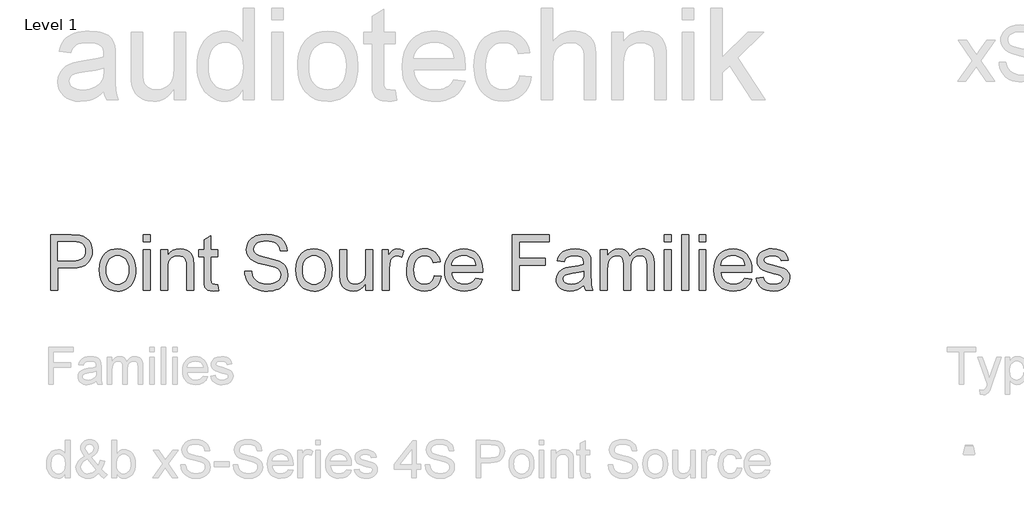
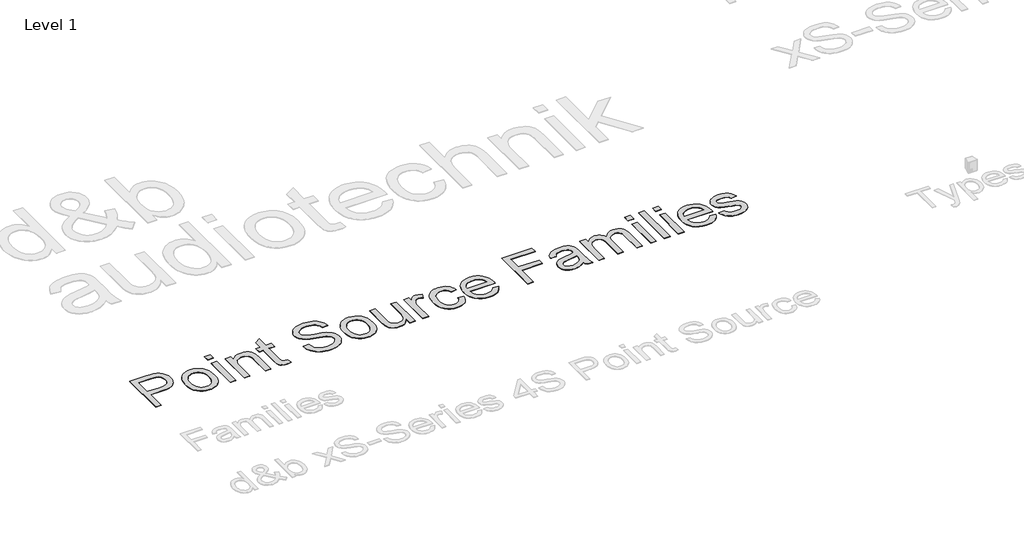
# One storey, part 52 of 55: 1 proxy.
"""IFC4 building model written with IfcOpenShell, lengths in millimetres."""

from ifc_helpers import new_model, si_unit, origin, origin_with_axes, place, context, project, spatial, polyline, outline, extrude, element, save

model = new_model("IFC4")

# Units and contexts
model_context = context("Model", 3, world=origin())
ifc_project = project(units=[si_unit("LENGTHUNIT", "METRE", prefix="MILLI")], contexts=[model_context])

# Site, building, storey
site = spatial("IfcSite", under=ifc_project)
building = spatial("IfcBuilding", under=site)
storey = spatial("IfcBuildingStorey", under=building, Name="Level 1", Elevation=0.0)

# Proxy
placement = place(None, origin())
element("IfcBuildingElementProxy", 1, Name="600mm Arial", ObjectType="600mm Arial", at=placement, inside=storey, context=model_context, shape_type="SweptSolid", body=[
    extrude(outline(polyline([(-21034.9539913, 18351.3054836), (-21034.9539913, 18942.0747143), (-20816.0116836, 18942.0747143), (-20765.0261067, 18940.6684643), (-20727.7424528, 18936.4497143), (-20688.3854817, 18925.938897), (-20655.9876451, 18908.829522), (-20629.8999047, 18884.346349), (-20609.473222, 18851.7141374), (-20596.2761067, 18813.2225509), (-20591.8770682, 18771.1612528), (-20594.8473206, 18734.8962288), (-20603.7580778, 18701.533849), (-20618.6093398, 18671.0741134), (-20639.4011067, 18643.517022), (-20667.9452773, 18620.674474), (-20706.0537509, 18604.3583682), (-20753.7265273, 18594.5687047), (-20810.9636067, 18591.3054836), (-20961.1078374, 18591.3054836), (-20961.1078374, 18351.3054836), (-21034.9539913, 18351.3054836)]), holes=[polyline([(-20961.1078374, 18665.1516374), (-20806.6366836, 18665.1516374), (-20771.1198567, 18666.846349), (-20741.1559143, 18671.9304836), (-20716.7448567, 18680.4040413), (-20697.8866836, 18692.267022), (-20683.8151692, 18707.2039211), (-20673.7640874, 18724.8992336), (-20667.7334384, 18745.3529595), (-20665.723222, 18768.565099), (-20670.4648086, 18801.7381759), (-20684.6895682, 18829.7189451), (-20706.630674, 18850.7766374), (-20734.521299, 18863.1804836), (-20763.0068759, 18866.9665413), (-20808.3674528, 18868.2285605), (-20961.1078374, 18868.2285605), (-20961.1078374, 18665.1516374)])]), origin_with_axes(), (0.0, 0.0, 1.0), 5.0),
    extrude(outline(polyline([(-20518.0309143, 18568.2285605), (-20514.0375249, 18624.4154595), (-20502.0573567, 18672.8319259), (-20482.0904095, 18713.4779595), (-20454.1366836, 18746.3535605), (-20425.9936547, 18767.3661807), (-20394.9299528, 18782.3751951), (-20360.9455778, 18791.3806038), (-20324.0405297, 18794.3824066), (-20283.2998446, 18790.7270581), (-20246.4624047, 18779.7610124), (-20213.52821, 18761.4842696), (-20184.4972605, 18735.8968297), (-20160.8028494, 18703.8640773), (-20143.8782701, 18666.251397), (-20133.7235225, 18623.0587889), (-20130.3386067, 18574.2862528), (-20131.8350009, 18534.7580076), (-20136.3241836, 18499.6828874), (-20143.8061547, 18469.0608922), (-20154.2809143, 18442.892022), (-20167.6177533, 18420.2883562), (-20183.6859624, 18400.361974), (-20202.4855417, 18383.1128754), (-20224.0164913, 18368.5410605), (-20247.4404696, 18356.9620341), (-20271.9191355, 18348.6913009), (-20297.4524889, 18343.728861), (-20324.0405297, 18342.0747143), (-20365.3761667, 18345.7165413), (-20402.5561547, 18356.642022), (-20435.5804937, 18374.8511566), (-20464.4491836, 18400.3439451), (-20487.8911908, 18432.6876951), (-20504.6354817, 18471.4497143), (-20514.6820562, 18516.6300028), (-20518.0309143, 18568.2285605)]), holes=[polyline([(-20444.1847605, 18568.3727913), (-20442.0483422, 18532.5539812), (-20435.6390874, 18501.5398586), (-20424.9569961, 18475.3304235), (-20410.0020682, 18453.9256759), (-20391.8109624, 18437.2985725), (-20371.4203374, 18425.4220701), (-20348.8301932, 18418.2961687), (-20324.0405297, 18415.9208682), (-20299.3770682, 18418.3096903), (-20276.8770682, 18425.4761566), (-20256.5405297, 18437.4202672), (-20238.3674528, 18454.142022), (-20223.4125249, 18475.7586086), (-20212.7304336, 18502.3872143), (-20206.3211788, 18534.0278393), (-20204.1847605, 18570.6804836), (-20206.3347004, 18605.3634764), (-20212.7845201, 18635.5663009), (-20223.5342196, 18661.2889571), (-20238.583799, 18682.5314451), (-20256.8244841, 18699.1585485), (-20277.1475009, 18711.0350509), (-20299.5528494, 18718.1609523), (-20324.0405297, 18720.5362528), (-20348.8301932, 18718.1699667), (-20371.4203374, 18711.0711086), (-20391.8109624, 18699.2396783), (-20410.0020682, 18682.6756759), (-20424.9569961, 18661.3340292), (-20435.6390874, 18635.1696663), (-20442.0483422, 18604.1825869), (-20444.1847605, 18568.3727913)])]), origin_with_axes(), (0.0, 0.0, 1.0), 5.0),
    extrude(outline(polyline([(-20047.2616836, 18868.2285605), (-20047.2616836, 18942.0747143), (-19973.4155297, 18942.0747143), (-19973.4155297, 18868.2285605), (-20047.2616836, 18868.2285605)])), origin_with_axes(), (0.0, 0.0, 1.0), 5.0),
    extrude(outline(polyline([(-20047.2616836, 18351.3054836), (-20047.2616836, 18785.1516374), (-19973.4155297, 18785.1516374), (-19973.4155297, 18351.3054836), (-20047.2616836, 18351.3054836)])), origin_with_axes(), (0.0, 0.0, 1.0), 5.0),
    extrude(outline(polyline([(-19862.646299, 18351.3054836), (-19862.646299, 18785.1516374), (-19788.8001451, 18785.1516374), (-19788.8001451, 18724.5747143), (-19763.145097, 18755.1155797), (-19732.333799, 18776.9304836), (-19696.3662509, 18790.0194259), (-19655.2424528, 18794.3824066), (-19618.8422124, 18790.8667816), (-19585.5068759, 18780.3199066), (-19557.7063951, 18764.0578874), (-19537.910722, 18743.3968297), (-19524.4792317, 18718.3908201), (-19515.771299, 18689.0939451), (-19511.8770682, 18617.6997143), (-19511.8770682, 18351.3054836), (-19585.723222, 18351.3054836), (-19585.723222, 18607.7477913), (-19587.8506259, 18645.9328874), (-19594.2328374, 18673.0843297), (-19606.005674, 18692.5374547), (-19624.3049528, 18707.627599), (-19647.7604817, 18717.3090893), (-19675.0020682, 18720.5362528), (-19697.4254456, 18718.7243538), (-19718.2532701, 18713.2886566), (-19737.4855417, 18704.2291615), (-19755.1222605, 18691.5458682), (-19769.856335, 18673.7964691), (-19780.380674, 18649.5386566), (-19786.6952773, 18618.7724307), (-19788.8001451, 18581.4977913), (-19788.8001451, 18351.3054836), (-19862.646299, 18351.3054836)])), origin_with_axes(), (0.0, 0.0, 1.0), 5.0),
    extrude(outline(polyline([(-19253.4155297, 18412.892022), (-19244.1847605, 18349.142022), (-19299.4251451, 18342.0747143), (-19334.8698567, 18345.1396182), (-19361.3001451, 18354.3343297), (-19379.9780297, 18368.5050028), (-19392.1655297, 18386.4977913), (-19398.8722605, 18417.3992336), (-19401.1078374, 18470.2958682), (-19401.1078374, 18711.3054836), (-19456.4924528, 18711.3054836), (-19456.4924528, 18785.1516374), (-19401.1078374, 18785.1516374), (-19401.1078374, 18890.5843297), (-19327.2616836, 18933.9977913), (-19327.2616836, 18785.1516374), (-19253.4155297, 18785.1516374), (-19253.4155297, 18711.3054836), (-19327.2616836, 18711.3054836), (-19327.2616836, 18472.4593297), (-19323.3674528, 18434.3824066), (-19310.7472605, 18420.8968297), (-19300.0922124, 18417.1648586), (-19285.5789913, 18415.9208682), (-19253.4155297, 18412.892022)])), origin_with_axes(), (0.0, 0.0, 1.0), 5.0),
    extrude(outline(polyline([(-18967.2616836, 18554.3824066), (-18893.4155297, 18554.3824066), (-18884.941972, 18513.4028393), (-18869.6174528, 18480.4641374), (-18845.7112028, 18454.3223105), (-18811.4924528, 18433.7333682), (-18769.6655297, 18420.3739932), (-18722.9347605, 18415.9208682), (-18681.7929336, 18419.2922624), (-18645.771299, 18429.4064451), (-18616.582597, 18445.4160605), (-18595.9395682, 18466.4737528), (-18583.661924, 18490.6504355), (-18579.5693759, 18516.017022), (-18582.6342797, 18540.7345701), (-18591.8289913, 18562.0987528), (-18610.5068759, 18580.3259163), (-18642.021299, 18595.6324066), (-18749.5453374, 18623.829522), (-18820.1282701, 18642.4893778), (-18865.2905297, 18660.2477913), (-18902.051347, 18685.0915413), (-18928.1030297, 18715.1997143), (-18943.6258663, 18749.923272), (-18948.8001451, 18788.6131759), (-18947.200085, 18810.603861), (-18942.3999047, 18831.8643778), (-18934.3996042, 18852.3947264), (-18923.1991836, 18872.1949066), (-18908.9248446, 18890.4581278), (-18891.7027893, 18906.377599), (-18871.5330177, 18919.9533201), (-18848.4155297, 18931.1852913), (-18796.4563951, 18946.2754355), (-18738.9443759, 18951.3054836), (-18676.6366836, 18946.0410605), (-18622.1174528, 18930.2477913), (-18598.2652893, 18918.4839691), (-18577.333799, 18904.2501951), (-18559.3229817, 18887.5464691), (-18544.2328374, 18868.3727913), (-18532.1805538, 18847.2880557), (-18523.2833182, 18824.8511566), (-18517.5411307, 18801.0620941), (-18514.9539913, 18775.9208682), (-18588.8001451, 18775.9208682), (-18593.740049, 18799.4845701), (-18602.3578374, 18819.9833682), (-18614.6535105, 18837.4172624), (-18630.6270682, 18851.7862528), (-18650.5759865, 18863.018224), (-18674.7977413, 18871.0410605), (-18703.2923326, 18875.8547624), (-18736.0597605, 18877.4593297), (-18769.8728615, 18875.8727913), (-18798.7640874, 18871.1131759), (-18822.7334384, 18863.1804836), (-18841.7809143, 18852.0747143), (-18856.2941355, 18838.7243538), (-18866.660722, 18824.0578874), (-18872.880674, 18808.0753153), (-18874.9539913, 18790.7766374), (-18869.0765874, 18762.3992336), (-18851.4443759, 18739.5747143), (-18835.254472, 18729.424474), (-18809.7616836, 18719.1660605), (-18730.8674528, 18698.3247143), (-18649.4491836, 18678.5290413), (-18600.1943759, 18661.2574066), (-18558.0970201, 18634.4665413), (-18541.8214792, 18618.7183441), (-18528.7280297, 18601.4016374), (-18518.6634264, 18582.6065653), (-18511.474424, 18562.423272), (-18505.723222, 18517.892022), (-18507.3773687, 18494.7925629), (-18512.3398086, 18472.3691855), (-18520.6105417, 18450.6218898), (-18532.1895682, 18429.5506759), (-18546.8740634, 18409.971349), (-18564.4612028, 18392.6997143), (-18584.9509865, 18377.735772), (-18608.3434143, 18365.079522), (-18633.9578975, 18355.0149187), (-18661.113847, 18347.8259163), (-18720.0501451, 18342.0747143), (-18757.825085, 18343.6251951), (-18792.3999047, 18348.2766374), (-18823.7746042, 18356.0290413), (-18851.9491836, 18366.8824066), (-18877.0949167, 18380.8547624), (-18899.3830778, 18397.9641374), (-18918.8136667, 18418.2105316), (-18935.3866836, 18441.5939451), (-18948.7370442, 18467.3571663), (-18958.4996643, 18494.7429836), (-18964.6745442, 18523.751397), (-18967.2616836, 18554.3824066)])), origin_with_axes(), (0.0, 0.0, 1.0), 5.0),
    extrude(outline(polyline([(-18422.646299, 18568.2285605), (-18418.6529095, 18624.4154595), (-18406.6727413, 18672.8319259), (-18386.7057942, 18713.4779595), (-18358.7520682, 18746.3535605), (-18330.6090393, 18767.3661807), (-18299.5453374, 18782.3751951), (-18265.5609624, 18791.3806038), (-18228.6559143, 18794.3824066), (-18187.9152292, 18790.7270581), (-18151.0777893, 18779.7610124), (-18118.1435946, 18761.4842696), (-18089.1126451, 18735.8968297), (-18065.4182341, 18703.8640773), (-18048.4936547, 18666.251397), (-18038.3389071, 18623.0587889), (-18034.9539913, 18574.2862528), (-18036.4503855, 18534.7580076), (-18040.9395682, 18499.6828874), (-18048.4215393, 18469.0608922), (-18058.896299, 18442.892022), (-18072.2331379, 18420.2883562), (-18088.301347, 18400.361974), (-18107.1009264, 18383.1128754), (-18128.6318759, 18368.5410605), (-18152.0558542, 18356.9620341), (-18176.5345201, 18348.6913009), (-18202.0678735, 18343.728861), (-18228.6559143, 18342.0747143), (-18269.9915514, 18345.7165413), (-18307.1715393, 18356.642022), (-18340.1958783, 18374.8511566), (-18369.0645682, 18400.3439451), (-18392.5065754, 18432.6876951), (-18409.2508663, 18471.4497143), (-18419.2974408, 18516.6300028), (-18422.646299, 18568.2285605)]), holes=[polyline([(-18348.8001451, 18568.3727913), (-18346.6637268, 18532.5539812), (-18340.254472, 18501.5398586), (-18329.5723807, 18475.3304235), (-18314.6174528, 18453.9256759), (-18296.426347, 18437.2985725), (-18276.035722, 18425.4220701), (-18253.4455778, 18418.2961687), (-18228.6559143, 18415.9208682), (-18203.9924528, 18418.3096903), (-18181.4924528, 18425.4761566), (-18161.1559143, 18437.4202672), (-18142.9828374, 18454.142022), (-18128.0279095, 18475.7586086), (-18117.3458182, 18502.3872143), (-18110.9365634, 18534.0278393), (-18108.8001451, 18570.6804836), (-18110.950085, 18605.3634764), (-18117.3999047, 18635.5663009), (-18128.1496042, 18661.2889571), (-18143.1991836, 18682.5314451), (-18161.4398687, 18699.1585485), (-18181.7628855, 18711.0350509), (-18204.1682341, 18718.1609523), (-18228.6559143, 18720.5362528), (-18253.4455778, 18718.1699667), (-18276.035722, 18711.0711086), (-18296.426347, 18699.2396783), (-18314.6174528, 18682.6756759), (-18329.5723807, 18661.3340292), (-18340.254472, 18635.1696663), (-18346.6637268, 18604.1825869), (-18348.8001451, 18568.3727913)])]), origin_with_axes(), (0.0, 0.0, 1.0), 5.0),
    extrude(outline(polyline([(-17674.9539913, 18351.3054836), (-17674.9539913, 18425.8727913), (-17701.6727413, 18389.2111326), (-17732.7905297, 18363.0242336), (-17768.3073567, 18347.3120941), (-17808.223222, 18342.0747143), (-17844.1907701, 18345.752599), (-17877.6703374, 18356.7862528), (-17905.7592797, 18373.3727913), (-17925.5549528, 18393.7093297), (-17938.8782701, 18418.408849), (-17947.5501451, 18448.0843297), (-17951.8770682, 18516.7381759), (-17951.8770682, 18785.1516374), (-17878.0309143, 18785.1516374), (-17878.0309143, 18551.4977913), (-17876.9131259, 18504.767022), (-17873.5597605, 18476.2093297), (-17862.7965393, 18451.095147), (-17844.3530297, 18432.002599), (-17819.4551932, 18419.9413009), (-17789.3289913, 18415.9208682), (-17757.4720201, 18420.0314451), (-17727.6703374, 18432.3631759), (-17703.0970201, 18451.7802432), (-17686.9251451, 18477.1468297), (-17677.9467797, 18511.8884163), (-17674.9539913, 18559.4304836), (-17674.9539913, 18785.1516374), (-17601.1078374, 18785.1516374), (-17601.1078374, 18351.3054836), (-17674.9539913, 18351.3054836)])), origin_with_axes(), (0.0, 0.0, 1.0), 5.0),
    extrude(outline(polyline([(-17499.5693759, 18351.3054836), (-17499.5693759, 18785.1516374), (-17434.9539913, 18785.1516374), (-17434.9539913, 18720.9689451), (-17411.083799, 18758.1804836), (-17389.0886067, 18780.1035605), (-17367.021299, 18790.8126951), (-17342.9347605, 18794.3824066), (-17306.1559143, 18788.6852913), (-17268.8001451, 18771.5939451), (-17293.4636067, 18705.392022), (-17319.4251451, 18716.7501951), (-17345.3866836, 18720.5362528), (-17367.4359624, 18716.8944259), (-17387.1414913, 18705.9689451), (-17403.0609624, 18688.5891374), (-17413.7520682, 18665.5843297), (-17422.7304336, 18624.3343297), (-17425.723222, 18579.3343297), (-17425.723222, 18351.3054836), (-17499.5693759, 18351.3054836)])), origin_with_axes(), (0.0, 0.0, 1.0), 5.0),
    extrude(outline(polyline([(-16945.723222, 18508.2285605), (-16871.8770682, 18498.9977913), (-16879.9089192, 18464.1525389), (-16892.4660105, 18433.3187047), (-16909.5483422, 18406.4962889), (-16931.1559143, 18383.6852913), (-16956.3782701, 18365.4806639), (-16984.3049528, 18352.4773586), (-17014.9359624, 18344.6753754), (-17048.271299, 18342.0747143), (-17089.6880658, 18345.7030196), (-17126.8229817, 18356.5879355), (-17159.6760466, 18374.7294619), (-17188.2472605, 18400.127599), (-17211.3737629, 18432.3045821), (-17227.8926932, 18470.782647), (-17237.8040514, 18515.5617937), (-17241.1078374, 18566.642022), (-17235.4648086, 18632.3571663), (-17228.4110225, 18661.9289812), (-17218.535722, 18689.3102913), (-17205.771299, 18713.9512167), (-17190.0501451, 18735.3018778), (-17171.3722605, 18753.3622744), (-17149.7376451, 18768.1324066), (-17126.1243639, 18779.6167816), (-17101.5104817, 18787.8199066), (-17075.8959985, 18792.7417816), (-17049.2809143, 18794.3824066), (-17016.5179937, 18792.1288009), (-16986.8830778, 18785.3679836), (-16960.3761667, 18774.0999547), (-16936.9972605, 18758.3247143), (-16917.1429937, 18738.4028393), (-16901.2100009, 18714.6949066), (-16889.1982821, 18687.2009163), (-16881.1078374, 18655.9208682), (-16954.9539913, 18646.690099), (-16968.349424, 18678.907647), (-16989.208799, 18702.002599), (-17016.3782701, 18715.9028393), (-17048.7039913, 18720.5362528), (-17073.7956379, 18718.2556038), (-17096.426347, 18711.4136566), (-17116.5961187, 18700.0104115), (-17134.3049528, 18684.0458682), (-17148.7235225, 18663.1504355), (-17159.0225009, 18636.954522), (-17165.2018879, 18605.4581278), (-17167.2616836, 18568.6612528), (-17165.24696, 18531.3099908), (-17159.2027893, 18499.4485124), (-17149.1291716, 18473.0768177), (-17135.0261067, 18452.1949066), (-17117.668835, 18436.3250148), (-17097.832597, 18424.9893778), (-17075.5173927, 18418.1879956), (-17050.723222, 18415.9208682), (-17012.4840393, 18421.5819259), (-16995.9470802, 18428.658248), (-16981.1318759, 18438.565099), (-16968.4530898, 18451.4106518), (-16958.3253855, 18467.3030797), (-16950.7487629, 18486.2423826), (-16945.723222, 18508.2285605)])), origin_with_axes(), (0.0, 0.0, 1.0), 5.0),
    extrude(outline(polyline([(-16503.5116836, 18480.5362528), (-16431.1078374, 18471.3054836), (-16442.2090994, 18442.3060845), (-16457.1955778, 18416.7501951), (-16476.0672725, 18394.6378153), (-16498.8241836, 18375.9689451), (-16525.231936, 18361.1402191), (-16555.0561547, 18350.548272), (-16588.2968398, 18344.1931038), (-16624.9539913, 18342.0747143), (-16670.7743038, 18345.7300629), (-16711.6006259, 18356.6961086), (-16747.4329576, 18374.9728514), (-16778.271299, 18400.5602913), (-16803.0699768, 18432.7462889), (-16820.7833182, 18470.8187047), (-16831.411323, 18514.7775389), (-16834.9539913, 18564.6227913), (-16831.3752653, 18616.158248), (-16820.6390874, 18661.5819259), (-16802.7454576, 18700.8938249), (-16777.6943759, 18734.0939451), (-16746.9371643, 18760.470147), (-16711.9251451, 18779.3102913), (-16672.6583182, 18790.6143778), (-16629.1366836, 18794.3824066), (-16587.0167917, 18790.6233922), (-16548.926347, 18779.346349), (-16514.8653494, 18760.5512768), (-16484.833799, 18734.2381759), (-16460.3190754, 18701.1101711), (-16442.8085586, 18661.8703874), (-16432.3022485, 18616.5188249), (-16428.8001451, 18565.0554836), (-16429.2328374, 18545.1516374), (-16761.1078374, 18545.1516374), (-16756.8304937, 18515.6834884), (-16748.3253855, 18489.8751951), (-16735.5925129, 18467.7267576), (-16718.6318759, 18449.2381759), (-16698.3809744, 18434.6618538), (-16675.7773086, 18424.2501951), (-16650.8208783, 18418.0031999), (-16623.5116836, 18415.9208682), (-16584.208799, 18419.7790413), (-16551.1078374, 18431.3535605), (-16524.208799, 18451.3655797), (-16503.5116836, 18480.5362528)]), holes=[polyline([(-16761.1078374, 18618.9977913), (-16502.646299, 18618.9977913), (-16512.6342797, 18658.0122143), (-16521.2250249, 18673.3547624), (-16532.2136067, 18685.9208682), (-16552.3518278, 18701.065099), (-16575.2664913, 18711.8824066), (-16600.957597, 18718.3727913), (-16629.4251451, 18720.5362528), (-16655.3911908, 18718.8099908), (-16679.2027893, 18713.6312047), (-16700.8599408, 18704.9998946), (-16720.3626451, 18692.9160605), (-16736.7283302, 18677.9385966), (-16748.974424, 18660.626397), (-16757.1009264, 18640.9794619), (-16761.1078374, 18618.9977913)])]), origin_with_axes(), (0.0, 0.0, 1.0), 5.0),
    extrude(outline(polyline([(-16114.9539913, 18351.3054836), (-16114.9539913, 18942.0747143), (-15718.0309143, 18942.0747143), (-15718.0309143, 18868.2285605), (-16041.1078374, 18868.2285605), (-16041.1078374, 18692.8439451), (-15764.1847605, 18692.8439451), (-15764.1847605, 18618.9977913), (-16041.1078374, 18618.9977913), (-16041.1078374, 18351.3054836), (-16114.9539913, 18351.3054836)])), origin_with_axes(), (0.0, 0.0, 1.0), 5.0),
    extrude(outline(polyline([(-15348.8001451, 18406.690099), (-15384.082597, 18376.4376951), (-15420.410722, 18356.642022), (-15458.613847, 18345.7165413), (-15499.521299, 18342.0747143), (-15532.4014071, 18344.2652191), (-15561.2340393, 18350.8367336), (-15586.0191956, 18361.7892576), (-15606.7568759, 18377.1227913), (-15623.1315754, 18395.8637768), (-15634.8277893, 18417.0386566), (-15641.8455177, 18440.6474307), (-15644.1847605, 18466.690099), (-15640.6511067, 18497.3030797), (-15630.0501451, 18525.1035605), (-15613.6979817, 18548.9016374), (-15592.910722, 18567.5074066), (-15568.4816355, 18581.5699066), (-15541.2039913, 18591.7381759), (-15477.3097605, 18602.8439451), (-15401.8049528, 18614.5266374), (-15349.2328374, 18628.2285605), (-15348.8001451, 18644.6708682), (-15353.8842797, 18677.627599), (-15360.239448, 18689.8331278), (-15369.1366836, 18699.190099), (-15384.5152893, 18708.5290413), (-15403.2472605, 18715.1997143), (-15450.771299, 18720.5362528), (-15494.7616836, 18716.9845701), (-15525.4828374, 18706.329522), (-15546.4323567, 18686.6239932), (-15561.1078374, 18655.9208682), (-15634.9539913, 18665.1516374), (-15622.1354817, 18705.5362528), (-15603.0068759, 18737.267022), (-15575.7833182, 18761.533849), (-15538.6799528, 18779.5266374), (-15493.301347, 18790.6684643), (-15441.2520682, 18794.3824066), (-15391.3301932, 18791.1011566), (-15351.7568759, 18781.2574066), (-15321.9191355, 18766.455724), (-15301.2039913, 18748.3006759), (-15287.4660105, 18725.8547624), (-15278.5597605, 18698.1804836), (-15274.9539913, 18633.565099), (-15274.9539913, 18541.690099), (-15271.2039913, 18413.3968297), (-15265.6511067, 18381.6840893), (-15256.4924528, 18351.3054836), (-15330.3386067, 18351.3054836), (-15342.1655297, 18376.9785605), (-15348.8001451, 18406.690099)]), holes=[polyline([(-15348.8001451, 18554.3824066), (-15398.4155297, 18542.0867336), (-15467.9347605, 18531.7381759), (-15531.4684143, 18519.767022), (-15548.0008663, 18511.5819259), (-15560.2424528, 18500.2958682), (-15567.8145682, 18486.7742336), (-15570.3386067, 18471.8824066), (-15564.8398086, 18449.923272), (-15548.3434143, 18431.9304836), (-15521.2100009, 18419.923272), (-15483.8001451, 18415.9208682), (-15444.1366836, 18420.3379355), (-15409.0886067, 18433.5891374), (-15380.6751451, 18453.1143778), (-15360.9155297, 18476.3535605), (-15352.1535105, 18500.2958682), (-15349.2328374, 18533.4689451), (-15348.8001451, 18554.3824066)])]), origin_with_axes(), (0.0, 0.0, 1.0), 5.0),
    extrude(outline(polyline([(-15173.4155297, 18351.3054836), (-15173.4155297, 18785.1516374), (-15099.5693759, 18785.1516374), (-15099.5693759, 18713.7574066), (-15077.3578374, 18746.5518778), (-15048.8001451, 18772.2429836), (-15014.8698567, 18788.8475509), (-14976.5405297, 18794.3824066), (-14935.4708182, 18788.7393778), (-14917.9918518, 18781.6855917), (-14902.5501451, 18771.8102913), (-14877.958799, 18744.7129355), (-14861.8770682, 18708.565099), (-14834.9600009, 18746.1101711), (-14804.2568759, 18772.9280797), (-14769.7676932, 18789.0188249), (-14731.4924528, 18794.3824066), (-14701.9296523, 18792.1513369), (-14675.9816355, 18785.4581278), (-14653.6484023, 18774.3027792), (-14634.9299528, 18758.6852913), (-14620.1327773, 18738.4253754), (-14609.5633663, 18713.3427432), (-14603.2217196, 18683.4373946), (-14601.1078374, 18648.7093297), (-14601.1078374, 18351.3054836), (-14674.9539913, 18351.3054836), (-14674.9539913, 18616.9785605), (-14676.6667317, 18653.8114932), (-14681.8049528, 18678.6372143), (-14691.4323567, 18695.6384163), (-14706.6126451, 18708.9977913), (-14726.1378855, 18717.6516374), (-14748.8001451, 18720.5362528), (-14769.7271283, 18718.6882961), (-14788.8061547, 18713.1444259), (-14806.0372244, 18703.9046422), (-14821.4203374, 18690.9689451), (-14834.0720802, 18673.9587288), (-14843.1090393, 18652.4953874), (-14848.5312148, 18626.5789211), (-14850.3386067, 18596.2093297), (-14850.3386067, 18351.3054836), (-14924.1847605, 18351.3054836), (-14924.1847605, 18625.1997143), (-14928.457597, 18666.954522), (-14941.2761067, 18696.7381759), (-14951.1874648, 18707.1498345), (-14963.8301932, 18714.5867336), (-14979.2042917, 18719.048873), (-14997.3097605, 18720.5362528), (-15025.7592797, 18716.5699066), (-15051.973222, 18704.6708682), (-15073.6078374, 18685.127599), (-15088.3193759, 18658.2285605), (-15096.7568759, 18620.908849), (-15099.5693759, 18570.1035605), (-15099.5693759, 18351.3054836), (-15173.4155297, 18351.3054836)])), origin_with_axes(), (0.0, 0.0, 1.0), 5.0),
    extrude(outline(polyline([(-14490.3386067, 18868.2285605), (-14490.3386067, 18942.0747143), (-14416.4924528, 18942.0747143), (-14416.4924528, 18868.2285605), (-14490.3386067, 18868.2285605)])), origin_with_axes(), (0.0, 0.0, 1.0), 5.0),
    extrude(outline(polyline([(-14490.3386067, 18351.3054836), (-14490.3386067, 18785.1516374), (-14416.4924528, 18785.1516374), (-14416.4924528, 18351.3054836), (-14490.3386067, 18351.3054836)])), origin_with_axes(), (0.0, 0.0, 1.0), 5.0),
    extrude(outline(polyline([(-14305.723222, 18351.3054836), (-14305.723222, 18942.0747143), (-14231.8770682, 18942.0747143), (-14231.8770682, 18351.3054836), (-14305.723222, 18351.3054836)])), origin_with_axes(), (0.0, 0.0, 1.0), 5.0),
    extrude(outline(polyline([(-14121.1078374, 18351.3054836), (-14121.1078374, 18785.1516374), (-14047.2616836, 18785.1516374), (-14047.2616836, 18351.3054836), (-14121.1078374, 18351.3054836)])), origin_with_axes(), (0.0, 0.0, 1.0), 5.0),
    extrude(outline(polyline([(-14121.1078374, 18868.2285605), (-14121.1078374, 18942.0747143), (-14047.2616836, 18942.0747143), (-14047.2616836, 18868.2285605), (-14121.1078374, 18868.2285605)])), origin_with_axes(), (0.0, 0.0, 1.0), 5.0),
    extrude(outline(polyline([(-13632.7424528, 18480.5362528), (-13560.3386067, 18471.3054836), (-13571.4398687, 18442.3060845), (-13586.426347, 18416.7501951), (-13605.2980417, 18394.6378153), (-13628.0549528, 18375.9689451), (-13654.4627052, 18361.1402191), (-13684.286924, 18350.548272), (-13717.5276091, 18344.1931038), (-13754.1847605, 18342.0747143), (-13800.005073, 18345.7300629), (-13840.8313951, 18356.6961086), (-13876.6637268, 18374.9728514), (-13907.5020682, 18400.5602913), (-13932.3007461, 18432.7462889), (-13950.0140874, 18470.8187047), (-13960.6420922, 18514.7775389), (-13964.1847605, 18564.6227913), (-13960.6060345, 18616.158248), (-13949.8698567, 18661.5819259), (-13931.9762268, 18700.8938249), (-13906.9251451, 18734.0939451), (-13876.1679336, 18760.470147), (-13841.1559143, 18779.3102913), (-13801.8890874, 18790.6143778), (-13758.3674528, 18794.3824066), (-13716.247561, 18790.6233922), (-13678.1571163, 18779.346349), (-13644.0961187, 18760.5512768), (-13614.0645682, 18734.2381759), (-13589.5498446, 18701.1101711), (-13572.0393278, 18661.8703874), (-13561.5330177, 18616.5188249), (-13558.0309143, 18565.0554836), (-13558.4636067, 18545.1516374), (-13890.3386067, 18545.1516374), (-13886.0612629, 18515.6834884), (-13877.5561547, 18489.8751951), (-13864.8232821, 18467.7267576), (-13847.8626451, 18449.2381759), (-13827.6117437, 18434.6618538), (-13805.0080778, 18424.2501951), (-13780.0516475, 18418.0031999), (-13752.7424528, 18415.9208682), (-13713.4395682, 18419.7790413), (-13680.3386067, 18431.3535605), (-13653.4395682, 18451.3655797), (-13632.7424528, 18480.5362528)]), holes=[polyline([(-13890.3386067, 18618.9977913), (-13631.8770682, 18618.9977913), (-13641.865049, 18658.0122143), (-13650.4557942, 18673.3547624), (-13661.4443759, 18685.9208682), (-13681.582597, 18701.065099), (-13704.4972605, 18711.8824066), (-13730.1883663, 18718.3727913), (-13758.6559143, 18720.5362528), (-13784.62196, 18718.8099908), (-13808.4335586, 18713.6312047), (-13830.09071, 18704.9998946), (-13849.5934143, 18692.9160605), (-13865.9590994, 18677.9385966), (-13878.2051932, 18660.626397), (-13886.3316956, 18640.9794619), (-13890.3386067, 18618.9977913)])]), origin_with_axes(), (0.0, 0.0, 1.0), 5.0),
    extrude(outline(polyline([(-13511.8770682, 18480.5362528), (-13438.0309143, 18489.767022), (-13433.5687749, 18472.9280797), (-13426.3842797, 18458.1804836), (-13416.4774288, 18445.5242336), (-13403.848222, 18434.9593297), (-13388.4606018, 18426.6300028), (-13370.2785105, 18420.6804836), (-13325.5309143, 18415.9208682), (-13281.3241836, 18420.283849), (-13264.1426932, 18425.7375749), (-13250.2424528, 18433.3727913), (-13231.8530297, 18452.3391374), (-13225.723222, 18474.3343297), (-13227.2646884, 18484.3042816), (-13231.8890874, 18493.1564451), (-13250.3866836, 18507.5074066), (-13278.0429336, 18516.8824066), (-13326.396299, 18528.565099), (-13393.7881259, 18548.0542816), (-13437.598222, 18564.6949066), (-13465.7412509, 18582.8499547), (-13486.1318759, 18606.8824066), (-13498.5176932, 18635.2598105), (-13502.646299, 18666.4497143), (-13499.3289913, 18695.0614932), (-13489.3770682, 18721.4737528), (-13473.691972, 18744.6408201), (-13453.1751451, 18763.517022), (-13432.7845201, 18775.3980316), (-13406.2280297, 18785.3679836), (-13375.5249047, 18792.1288009), (-13342.6943759, 18794.3824066), (-13294.629472, 18790.7586086), (-13252.8386067, 18779.8872143), (-13219.2328374, 18762.8319259), (-13195.723222, 18740.6564451), (-13180.146299, 18711.720147), (-13170.3386067, 18674.3824066), (-13244.1847605, 18665.1516374), (-13253.505674, 18688.3908201), (-13271.9491836, 18705.8968297), (-13299.6955778, 18716.876397), (-13336.9251451, 18720.5362528), (-13379.3289913, 18717.0386566), (-13407.598222, 18706.5458682), (-13423.4996643, 18691.4016374), (-13428.8001451, 18673.9497143), (-13426.6006259, 18662.5915413), (-13420.0020682, 18652.4593297), (-13408.7160105, 18643.408849), (-13392.4539913, 18636.1612528), (-13328.848222, 18620.440099), (-13220.458799, 18585.6804836), (-13191.8289913, 18569.0578874), (-13170.1222605, 18546.3054836), (-13156.4383663, 18517.3511566), (-13151.8770682, 18482.1227913), (-13157.2316355, 18445.704522), (-13173.2953374, 18411.4497143), (-13199.4551932, 18382.0446663), (-13235.098222, 18360.1756759), (-13278.1511067, 18346.5999547), (-13326.5405297, 18342.0747143), (-13366.2851211, 18344.2562047), (-13400.9996643, 18350.8006759), (-13430.6841595, 18361.7081278), (-13455.3386067, 18376.9785605), (-13475.4768278, 18396.5398586), (-13491.6126451, 18420.3199066), (-13503.7460586, 18448.3187047), (-13511.8770682, 18480.5362528)])), origin_with_axes(), (0.0, 0.0, 1.0), 5.0),
])

save(model, "model.ifc")
